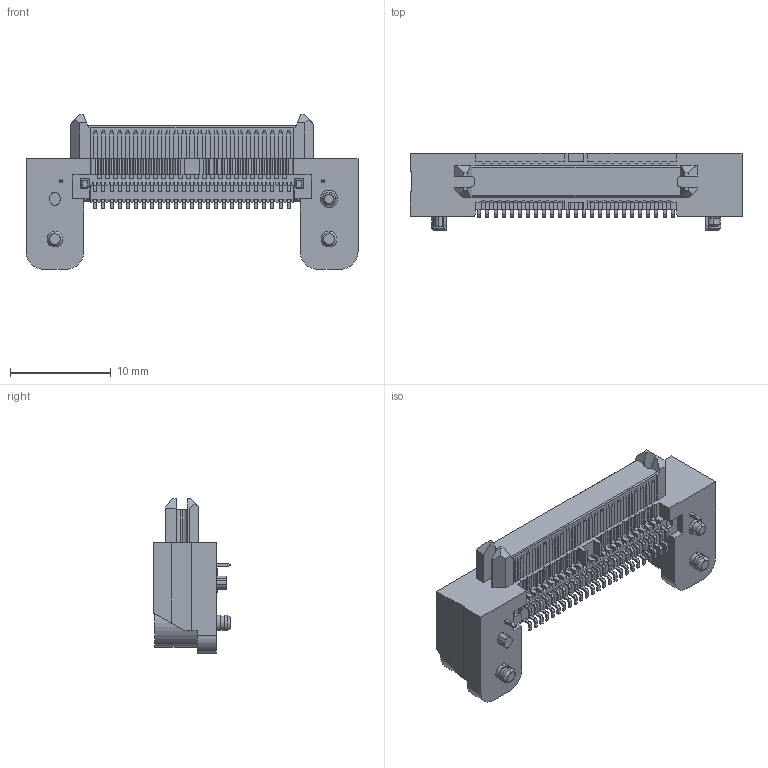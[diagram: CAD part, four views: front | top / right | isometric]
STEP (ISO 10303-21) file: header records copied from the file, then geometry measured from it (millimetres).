
FILE_DESCRIPTION (( 'STEP AP214' ), '1' );
FILE_NAME ('2386-12X25C3D3MLT-S.STEP', '2022-02-24T10:03:05', ( '' ), ( '' ), 'SwSTEP 2.0', 'SolidWorks 2011', '' );
FILE_SCHEMA (( 'AUTOMOTIVE_DESIGN' ));
Length unit declared in the file: millimetre
Products named in the file (1): 2386-12X25C3D3MLT-S
Bounding box: 33 x 7.65 x 15.36 mm (x, y, z)
Volume: 1281.3 mm3; surface area: 1882 mm2
Topology: 1 solids, 1 shells, 3126 faces, 9387 edges, 6258 vertices
Faces by surface type: plane 1976, cylinder 1141, cone 7, bspline 2
Entity records: 141772 total; most frequent: CARTESIAN_POINT 25345, ORIENTED_EDGE 18774, DIRECTION 14915, EDGE_CURVE 9387, VERTEX_POINT 6258, VECTOR 6049, LINE 6049, AXIS2_PLACEMENT_3D 4433
